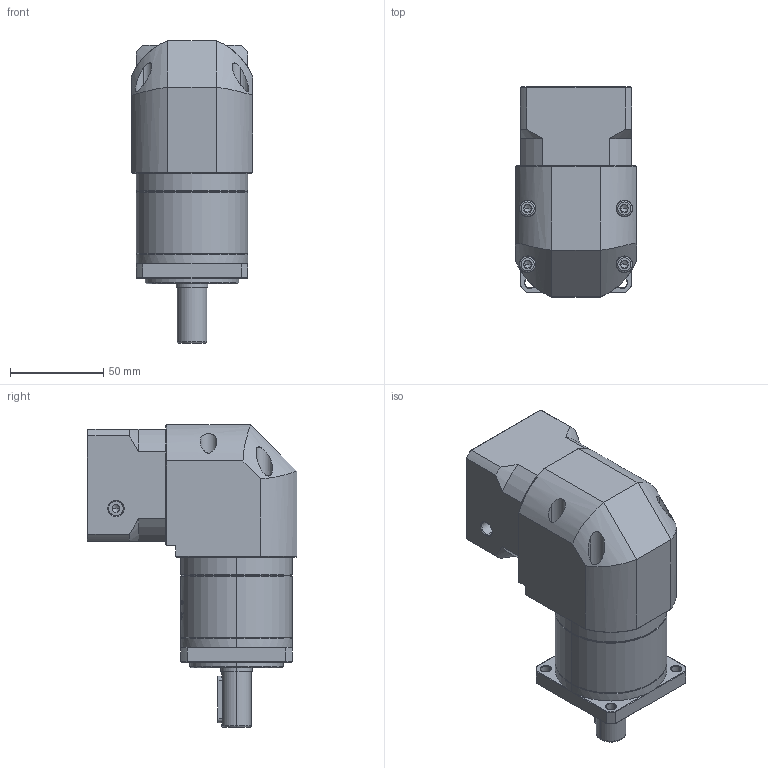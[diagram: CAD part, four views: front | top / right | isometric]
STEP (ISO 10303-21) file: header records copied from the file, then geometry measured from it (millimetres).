
FILE_DESCRIPTION (( 'STEP AP214' ), '1' );
FILE_NAME ('ZFR060-D16-L1-P2-8-30-46-M4.step', '2023-08-17T03:34:15', ( '' ), ( '' ), 'SwSTEP 2.0', 'SolidWorks 2016', '' );
FILE_SCHEMA (( 'AUTOMOTIVE_DESIGN' ));
Length unit declared in the file: millimetre
Products named in the file (1): ZFR060-D16-L1-P2-8-30-46-M4
Bounding box: 65 x 112.7 x 162.5 mm (x, y, z)
Volume: 545753.4 mm3; surface area: 80286.5 mm2
Topology: 5 solids, 6 shells, 1966 faces, 5287 edges, 3423 vertices
Faces by surface type: plane 845, bspline 418, cylinder 391, cone 288, torus 24
Entity records: 124162 total; most frequent: CARTESIAN_POINT 57914, ORIENTED_EDGE 10546, DIRECTION 7643, EDGE_CURVE 5273, VERTEX_POINT 3423, VECTOR 2593, LINE 2593, AXIS2_PLACEMENT_3D 2525
